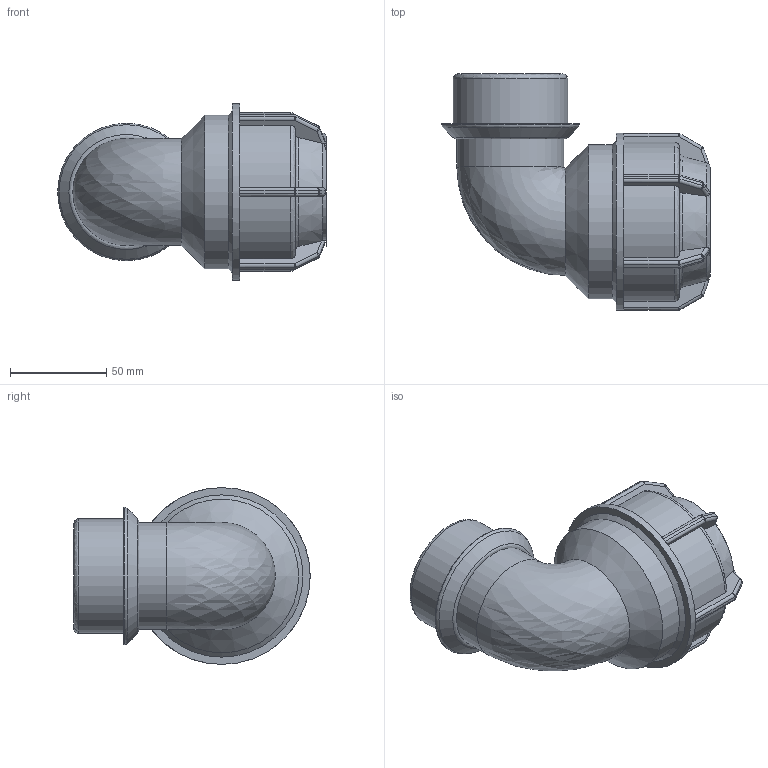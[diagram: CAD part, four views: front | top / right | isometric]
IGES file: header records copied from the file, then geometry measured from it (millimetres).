
Global section: file name: 148500050020.ipt; native system: Autodesk Inventor 2015; preprocessor: unknown; author: KIM; date: 20180409.131301; units: millimetre
Bounding box: 139.77 x 123 x 92 mm (x, y, z)
Volume: 287669 mm3; surface area: 72712.4 mm2
Topology: 1 solids, 1 shells, 213 faces, 509 edges, 297 vertices
Faces by surface type: plane 98, cylinder 59, sphere 24, revolution 23, cone 9
Full cylindrical faces by diameter (mm): 55.739 x1, 59.614 x1, 71.537 x1, 80 x1, 92 x1
